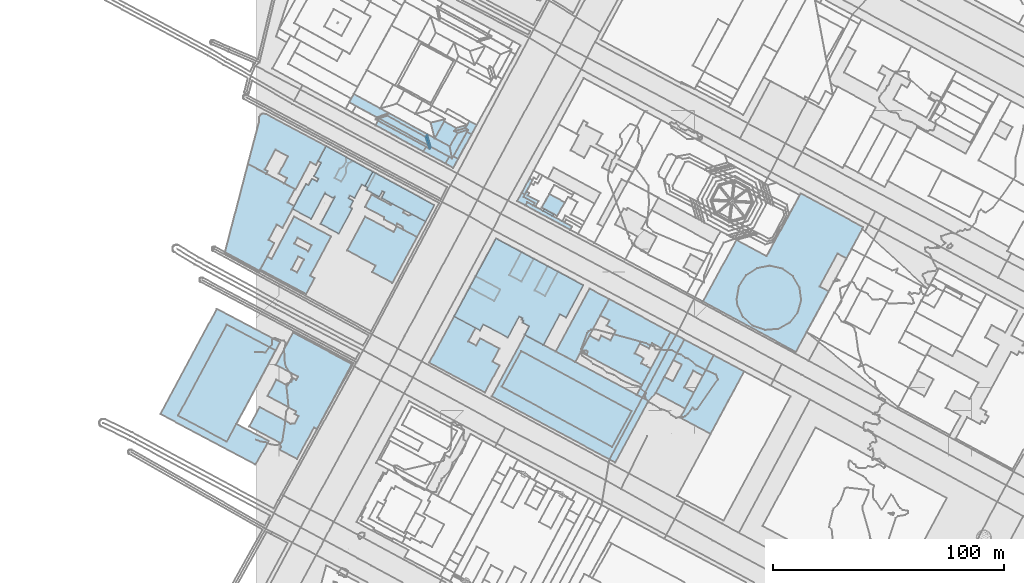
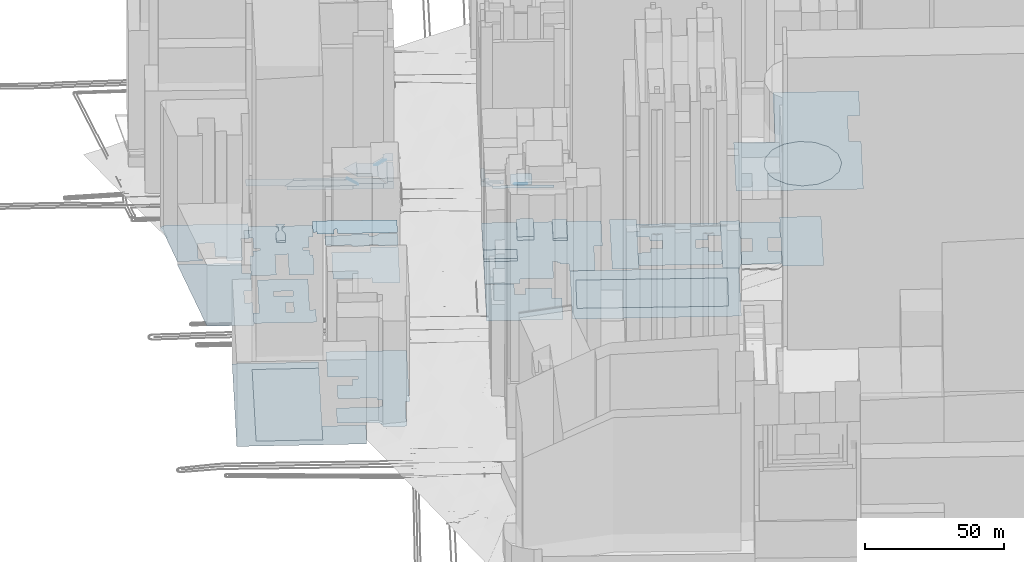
# Not in any storey, part 6 of 76: 49 footings.
"""IFC2X3 model written with IfcOpenShell, lengths in metres."""

import ifcopenshell
import ifcopenshell.guid

model = None  # the IFC model being written
_history = None  # IfcOwnerHistory: only IFC2X3 demands one
_inside = {}  # id of a spatial element -> (the spatial element, [elements in it])
_under = {}  # id of a project, library or spatial element -> (it, [spatial elements below it])
_declared = {}  # id of a project -> (the project, [libraries it declares])
_typed = {}  # id of a type object -> (the type object, [elements of that type])
_made_of = {}  # id of a material, layer set ... -> (it, [elements and type objects made of it])


def new_model(schema):
    """Start an empty IFC model of exactly this schema.

    Asked for "IFC4X3", IfcOpenShell would pick the latest addendum, in which some entities
    have other attributes; the version numbers below select the first issue.
    IFC2X3 requires an IfcOwnerHistory on every rooted entity: one is made here for all.
    """
    global model, _history
    if schema == "IFC4X3":
        model = ifcopenshell.file(schema_version=(4, 3, 0, 0))
    else:
        model = ifcopenshell.file(schema=schema)
    _inside.clear()
    _under.clear()
    _declared.clear()
    _typed.clear()
    _made_of.clear()
    _history = None
    if model.schema == "IFC2X3":
        org = make("IfcOrganization", Name="unknown")
        user = make(
            "IfcPersonAndOrganization",
            ThePerson=make("IfcPerson", FamilyName="unknown"),
            TheOrganization=org,
        )
        app = make(
            "IfcApplication",
            ApplicationDeveloper=org,
            Version="unknown",
            ApplicationFullName="unknown",
            ApplicationIdentifier="unknown",
        )
        _history = make(
            "IfcOwnerHistory",
            OwningUser=user,
            OwningApplication=app,
            ChangeAction="ADDED",
            CreationDate=0,
        )
    return model


def make(cls, **values):
    """One entity of the class cls with the attributes given. An attribute that is None is left unset."""
    return model.create_entity(
        cls, **{name: value for name, value in values.items() if value is not None}
    )


def rooted(cls, **values):
    """An entity with a GlobalId (a new one), such as an element, a storey or a relation."""
    return make(cls, GlobalId=ifcopenshell.guid.new(), OwnerHistory=_history, **values)


def si_unit(unit_type, name, prefix=None):
    """IfcSIUnit, for example si_unit("LENGTHUNIT", "METRE", prefix="MILLI")."""
    return make("IfcSIUnit", UnitType=unit_type, Prefix=prefix, Name=name)


def assignment(units):
    """IfcUnitAssignment: the units of a project."""
    return None if units is None else make("IfcUnitAssignment", Units=units)


def point(xyz):
    """IfcCartesianPoint."""
    return None if xyz is None else make("IfcCartesianPoint", Coordinates=xyz)


def direction(xyz):
    """IfcDirection."""
    return None if xyz is None else make("IfcDirection", DirectionRatios=xyz)


def frame(location, z_axis=None, x_axis=None):
    """IfcAxis2Placement3D, a coordinate frame: its origin and axes. An axis left out is left unset."""
    return make(
        "IfcAxis2Placement3D",
        Location=point(location),
        Axis=direction(z_axis),
        RefDirection=direction(x_axis),
    )


def origin_with_axes():
    """The frame at (0, 0, 0) with the z axis (0, 0, 1) and the x axis (1, 0, 0) written out."""
    return frame((0.0, 0.0, 0.0), z_axis=(0.0, 0.0, 1.0), x_axis=(1.0, 0.0, 0.0))


def place(relative_to, where):
    """IfcLocalPlacement: puts the frame where relative to a parent placement (None: the world)."""
    return make(
        "IfcLocalPlacement", PlacementRelTo=relative_to, RelativePlacement=where
    )


def context(
    kind, dimensions, precision=None, world=None, true_north=None, identifier=None
):
    """IfcGeometricRepresentationContext, for example the 3D "Model" context."""
    return make(
        "IfcGeometricRepresentationContext",
        ContextIdentifier=identifier,
        ContextType=kind,
        CoordinateSpaceDimension=dimensions,
        Precision=precision,
        WorldCoordinateSystem=world,
        TrueNorth=true_north,
    )


def subcontext(parent, identifier, kind, view, scale=None):
    """IfcGeometricRepresentationSubContext, for example "Body" below "Model"."""
    return make(
        "IfcGeometricRepresentationSubContext",
        ContextIdentifier=identifier,
        ContextType=kind,
        ParentContext=parent,
        TargetScale=scale,
        TargetView=view,
    )


def project(units=None, contexts=None):
    """IfcProject with its units and contexts."""
    return rooted(
        "IfcProject",
        Name="project",
        RepresentationContexts=contexts,
        UnitsInContext=assignment(units),
    )


def faces_of(points, faces, orient=None, outer=None):
    """IfcFace entities. A face is a list of loops; a loop is a list of indices into points, from 0.

    orient and outer hold one flag for each loop. By default every Orientation is true, the
    first loop of a face is its IfcFaceOuterBound and the others are IfcFaceBound.
    """
    made = []
    for i, loops in enumerate(faces):
        bounds = []
        for j, loop in enumerate(loops):
            is_outer = j == 0 if outer is None else outer[i][j]
            bounds.append(
                make(
                    "IfcFaceOuterBound" if is_outer else "IfcFaceBound",
                    Bound=make("IfcPolyLoop", Polygon=[points[k] for k in loop]),
                    Orientation=True if orient is None else orient[i][j],
                )
            )
        made.append(make("IfcFace", Bounds=bounds))
    return made


def faceted_brep(points, faces, orient=None, outer=None, voids=None):
    """IfcFacetedBrep: a solid bounded by flat faces; with voids (closed shells), ...WithVoids."""
    shared = [point(p) for p in points]
    hull = make("IfcClosedShell", CfsFaces=faces_of(shared, faces, orient, outer))
    if voids is None:
        return make("IfcFacetedBrep", Outer=hull)
    return make(
        "IfcFacetedBrepWithVoids",
        Outer=hull,
        Voids=[
            make(cls, CfsFaces=faces_of(shared, fs, o, b)) for cls, fs, o, b in voids
        ],
    )


def shape(context_of_items, identifier, shape_type, items):
    """IfcShapeRepresentation: the items that make up one representation, for example the "Body"."""
    return make(
        "IfcShapeRepresentation",
        ContextOfItems=context_of_items,
        RepresentationIdentifier=identifier,
        RepresentationType=shape_type,
        Items=items,
    )


def made_of(thing, what):
    """Note that an element or type object is made of a material, layer set ...; save() writes the relation."""
    if what is not None:
        _made_of.setdefault(what.id(), (what, []))[1].append(thing)
    return thing


def element(
    cls,
    number,
    at=None,
    inside=None,
    cuts=None,
    type_object=None,
    material=None,
    context=None,
    identifier="Body",
    shape_type=None,
    held_by="IfcProductDefinitionShape",
    body=None,
    shapes=None,
    **own,
):
    """One element of the class cls, such as IfcWall. Its Tag is "e" and its number.

    at: its placement. inside: the storey or other place that contains it. cuts: it is an
    opening in that element (IfcRelVoidsElement). A single representation is given by context,
    identifier, shape_type and body (its items); several are given by shapes. held_by: the class
    of the entity that holds the representations. save() writes the other relations.
    """
    e = rooted(cls, Tag="e%d" % number, ObjectPlacement=at, **own)
    if body is not None:
        shapes = [shape(context, identifier, shape_type, body)]
    if shapes is not None:
        e.Representation = make(held_by, Representations=shapes)
    if inside is not None:
        _inside.setdefault(inside.id(), (inside, []))[1].append(e)
    if cuts is not None:
        rooted(
            "IfcRelVoidsElement", RelatingBuildingElement=cuts, RelatedOpeningElement=e
        )
    if type_object is not None:
        _typed.setdefault(type_object.id(), (type_object, []))[1].append(e)
    return made_of(e, material)


def aggregate(whole, parts):
    """IfcRelAggregates: a whole, such as a stair, and the parts it consists of."""
    return rooted("IfcRelAggregates", RelatingObject=whole, RelatedObjects=parts)


def save(model, path):
    """Write the relations noted so far, then the file.

    IfcRelAggregates (storeys below a building ...), IfcRelContainedInSpatialStructure (elements
    in a storey), IfcRelDefinesByType, IfcRelAssociatesMaterial and IfcRelDeclares: one each for
    every whole, place, type object, material and project.
    """
    for whole, parts in _under.values():
        aggregate(whole, parts)
    for where, things in _inside.values():
        rooted(
            "IfcRelContainedInSpatialStructure",
            RelatedElements=things,
            RelatingStructure=where,
        )
    for kind, things in _typed.values():
        rooted("IfcRelDefinesByType", RelatedObjects=things, RelatingType=kind)
    for what, things in _made_of.values():
        rooted("IfcRelAssociatesMaterial", RelatedObjects=things, RelatingMaterial=what)
    for by, libraries in _declared.values():
        rooted("IfcRelDeclares", RelatingContext=by, RelatedDefinitions=libraries)
    model.write(path)


model = new_model("IFC2X3")

# Units and contexts
model_context = context("Model", 3, precision=1e-05, world=origin_with_axes())
body_context = subcontext(model_context, "Body", "Model", "MODEL_VIEW")
ifc_project = project(units=[si_unit("AREAUNIT", "SQUARE_METRE"), si_unit("LENGTHUNIT", "METRE")], contexts=[model_context])

# Footings
footing_1_placement = place(None, frame((183.8820757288, 196.3915098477, 20.8609767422), z_axis=(0.0, 0.0, 1.0), x_axis=(1.0, 0.0, 0.0)))
element("IfcFooting", 1, at=footing_1_placement, Name="Sol 0", PredefinedType="STRIP_FOOTING", context=body_context, shape_type="Brep", body=[
    faceted_brep([(13.0985430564, -7.030868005, 0.0), (0.0, 0.0, 0.0), (14.5169569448, 27.0695500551, 0.0), (27.6239079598, 20.0388061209, 0.0)], [[[0, 1, 2]], [[2, 3, 0]]]),
])
footing_2_placement = place(None, frame((102.2298570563, 205.6345629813, 20.5938253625), z_axis=(0.0, 0.0, 1.0), x_axis=(1.0, 0.0, 0.0)))
element("IfcFooting", 2, at=footing_2_placement, Name="Sol 0", PredefinedType="STRIP_FOOTING", context=body_context, shape_type="Brep", body=[
    faceted_brep([(53.4972467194, -28.6328905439, 0.0), (0.0, 0.0, 0.0), (14.353712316, 26.6122941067, 0.0), (67.8508291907, -2.0204918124, 0.0)], [[[0, 1, 2]], [[2, 3, 0]]]),
])
footing_3_placement = place(None, frame((106.4781571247, 209.8028425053, 21.3379729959), z_axis=(0.0, 0.0, 1.0), x_axis=(1.0, 0.0, 0.0)))
element("IfcFooting", 3, at=footing_3_placement, Name="Sol 0", PredefinedType="STRIP_FOOTING", context=body_context, shape_type="Brep", body=[
    faceted_brep([(47.8622501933, -26.0671157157, 0.0), (0.0, 0.0, 0.0), (8.5063843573, 15.4865312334, 0.0), (56.3684390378, -10.5694282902, 0.0)], [[[0, 1, 2]], [[2, 3, 0]]]),
])
footing_4_placement = place(None, frame((164.9927892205, 206.3193932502, 19.6062191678), z_axis=(0.0, 0.0, 1.0), x_axis=(1.0, 0.0, 0.0)))
element("IfcFooting", 4, at=footing_4_placement, Name="Sol 0", PredefinedType="STRIP_FOOTING", context=body_context, shape_type="Brep", body=[
    faceted_brep([(5.0878970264, -2.7053220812, 0.0), (0.0, 0.0, 0.0), (14.5577861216, 27.1921115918, 0.0), (20.6479519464, 23.9544415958, 0.0), (8.2630231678, 0.8287960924, 0.0)], [[[0, 1, 2]], [[3, 4, 0]], [[0, 2, 3]]]),
])
footing_5_placement = place(None, frame((173.2558123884, 207.1481893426, 18.8067512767), z_axis=(0.0, 0.0, 1.0), x_axis=(1.0, 0.0, 0.0)))
element("IfcFooting", 5, at=footing_5_placement, Name="Sol 0", PredefinedType="STRIP_FOOTING", context=body_context, shape_type="Brep", body=[
    faceted_brep([(12.733126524, -6.8241916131, 0.0), (0.0, 0.0, 0.0), (3.742823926, 6.9824180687, 0.0), (12.3816260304, 2.3532869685, 0.0), (16.475942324, 0.1582329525, 0.0), (25.1432202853, 16.3128705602, 0.0), (20.3758905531, 7.4200430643, 0.0), (16.2731366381, 9.6149967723, 0.0), (7.6512209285, 14.2443195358, 0.0), (12.3849287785, 23.1256455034, 0.0), (7.3952691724, 5.0375743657, 0.0), (11.2869121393, 12.2881807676, 0.0)], [[[0, 1, 2]], [[3, 4, 0]], [[5, 6, 7]], [[8, 9, 5]], [[0, 2, 10]], [[8, 5, 7]], [[0, 10, 11]], [[11, 8, 7]], [[3, 0, 11]], [[11, 7, 3]]]),
])
footing_6_placement = place(None, frame((140.736043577, 224.855812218, 18.8878227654), z_axis=(0.0, 0.0, 1.0), x_axis=(1.0, 0.0, 0.0)))
element("IfcFooting", 6, at=footing_6_placement, Name="Sol 0", PredefinedType="STRIP_FOOTING", context=body_context, shape_type="Brep", body=[
    faceted_brep([(26.5536145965, -14.2464559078, 0.0), (0.0, 0.0, 0.0), (3.8172594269, 7.11649328, 0.0), (26.1831921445, -4.8915607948, 0.0), (30.3624164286, -7.1300469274, 0.0), (23.3727549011, -0.5832457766, 0.0), (27.3481177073, -2.7130804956, 0.0), (30.8679530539, 3.8448574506, 0.0), (29.6369264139, 1.5434833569, 0.0), (25.6615651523, 3.6733168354, 0.0), (38.8145317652, 8.6556926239, 0.0), (35.0471740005, 1.6063739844, 0.0), (8.4690509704, 15.7859003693, 0.0), (12.3027872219, 22.9358968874, 0.0), (15.2048295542, 9.2916463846, 0.0), (11.254926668, 11.4106810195, 0.0), (12.4614103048, 13.6451532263, 0.0), (7.801181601, 4.9756455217, 0.0), (8.9662398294, 7.1430221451, 0.0), (12.9161442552, 5.023986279, 0.0)], [[[0, 1, 2]], [[3, 4, 0]], [[5, 6, 3]], [[7, 8, 9]], [[10, 11, 7]], [[12, 13, 10]], [[14, 15, 16]], [[17, 18, 19]], [[0, 2, 17]], [[5, 3, 0]], [[10, 7, 9]], [[16, 12, 10]], [[0, 17, 19]], [[16, 10, 9]], [[0, 19, 14]], [[16, 9, 5]], [[5, 0, 14]], [[14, 16, 5]]]),
])
footing_7_placement = place(None, frame((129.9536213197, 225.0858006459, 21.0283081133), z_axis=(0.0, 0.0, 1.0), x_axis=(1.0, 0.0, 0.0)))
element("IfcFooting", 7, at=footing_7_placement, Name="Sol 0", PredefinedType="STRIP_FOOTING", context=body_context, shape_type="Brep", body=[
    faceted_brep([(8.4687912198, -4.5312400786, 0.0), (0.0, 0.0, 0.0), (14.6163103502, 27.2482324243, 0.0), (23.0852094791, 22.7059084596, 0.0)], [[[0, 1, 2]], [[2, 3, 0]]]),
])
footing_8_placement = place(None, frame((85.8984085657, 240.2837612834, 20.6241127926), z_axis=(0.0, 0.0, 1.0), x_axis=(1.0, 0.0, 0.0)))
element("IfcFooting", 8, at=footing_8_placement, Name="Sol 0", PredefinedType="STRIP_FOOTING", context=body_context, shape_type="Brep", body=[
    faceted_brep([(11.2465195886, -6.0311397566, 0.0), (0.0, 0.0, 0.0), (18.1278687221, 33.8059517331, 0.0), (28.2024169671, 0.0388994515, 0.0), (23.2861681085, -9.1220554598, 0.0), (12.6512037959, -3.4168984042, 0.0), (30.1152258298, -1.848467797, 0.0), (29.3592670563, -1.4464661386, 0.0), (29.7229034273, -0.776106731, 0.0), (32.5654494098, -4.2180905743, 0.0), (29.6773030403, -2.6640194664, 0.0), (38.6867515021, -12.3182352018, 0.0), (30.5658357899, -7.9383700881, 0.0), (55.9958034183, 13.4846763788, 0.0), (48.5348020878, -0.4243246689, 0.0), (45.8336301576, 1.0208901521, 0.0)], [[[0, 1, 2]], [[3, 4, 5]], [[6, 7, 8]], [[9, 10, 6]], [[11, 12, 9]], [[13, 14, 15]], [[5, 0, 2]], [[9, 6, 8]], [[15, 11, 9]], [[2, 13, 15]], [[3, 5, 2]], [[15, 9, 8]], [[3, 2, 15]], [[15, 8, 3]]]),
])
footing_9_placement = place(None, frame((85.8984085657, 240.2837612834, 20.6241127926), z_axis=(0.0, 0.0, 1.0), x_axis=(1.0, 0.0, 0.0)))
element("IfcFooting", 9, at=footing_9_placement, Name="Sol 0", PredefinedType="STRIP_FOOTING", context=body_context, shape_type="Brep", body=[
    faceted_brep([(11.2465195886, -6.0311397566, 0.0), (0.0, 0.0, 0.0), (6.6595287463, 12.4230421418, 0.0), (28.2024169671, 0.0388994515, 0.0), (23.2861681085, -9.1220554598, 0.0), (12.6512037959, -3.4168984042, 0.0), (30.1152258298, -1.848467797, 0.0), (29.3592670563, -1.4464661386, 0.0), (29.7229034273, -0.776106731, 0.0), (32.5654494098, -4.2180905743, 0.0), (29.6773030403, -2.6640194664, 0.0), (38.6867515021, -12.3182352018, 0.0), (30.5658357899, -7.9383700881, 0.0), (55.9958034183, 13.4846763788, 0.0), (48.5348020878, -0.4243246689, 0.0), (45.8336301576, 1.0208901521, 0.0), (39.3945655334, 8.8619853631, 0.0), (45.0379209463, 19.3747728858, 0.0), (34.5220457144, 25.003566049, 0.0), (40.5020482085, 21.7978755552, 0.0), (34.8585594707, 11.2961922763, 0.0), (18.1278687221, 33.8059517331, 0.0), (29.1875069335, 27.8725894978, 0.0), (23.8498507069, 17.92958022, 0.0), (20.0566635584, 11.6460536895, 0.0), (9.3283721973, 17.3945398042, 0.0), (17.387953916, 6.6634513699, 0.0), (29.1928346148, 15.0606509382, 0.0)], [[[0, 1, 2]], [[3, 4, 5]], [[6, 7, 8]], [[9, 10, 6]], [[11, 12, 9]], [[13, 14, 15]], [[16, 17, 13]], [[18, 19, 20]], [[21, 22, 23]], [[24, 25, 21]], [[0, 2, 26]], [[9, 6, 8]], [[15, 11, 9]], [[16, 13, 15]], [[27, 18, 20]], [[24, 21, 23]], [[0, 26, 24]], [[15, 9, 8]], [[20, 16, 15]], [[23, 27, 20]], [[0, 24, 23]], [[15, 8, 3]], [[23, 20, 15]], [[5, 0, 23]], [[23, 15, 3]], [[3, 5, 23]]]),
])
footing_10_placement = place(None, frame((109.7482592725, 258.2133415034, 22.1609130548), z_axis=(0.0, 0.0, 1.0), x_axis=(1.0, 0.0, 0.0)))
element("IfcFooting", 10, at=footing_10_placement, Name="Sol 0", PredefinedType="STRIP_FOOTING", context=body_context, shape_type="Brep", body=[
    faceted_brep([(5.3429839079, -2.8689292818, 0.0), (0.0, 0.0, 0.0), (5.3376562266, 9.9430092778, 0.0), (10.6721950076, 7.073985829, 0.0)], [[[0, 1, 2]], [[2, 3, 0]]]),
])
footing_11_placement = place(None, frame((120.7569680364, 251.5799535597, 21.6785385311), z_axis=(0.0, 0.0, 1.0), x_axis=(1.0, 0.0, 0.0)))
element("IfcFooting", 11, at=footing_11_placement, Name="Sol 0", PredefinedType="STRIP_FOOTING", context=body_context, shape_type="Brep", body=[
    faceted_brep([(4.5360060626, -2.4342069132, 0.0), (0.0, 0.0, 0.0), (5.6434887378, 10.5016832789, 0.0), (10.1793614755, 8.0785806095, 0.0)], [[[0, 1, 2]], [[2, 3, 0]]]),
])
footing_12_placement = place(None, frame((123.8777892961, 287.3987743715, 22.3844927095), z_axis=(0.0, 0.0, 1.0), x_axis=(1.0, 0.0, 0.0)))
element("IfcFooting", 12, at=footing_12_placement, Name="Sol 0", PredefinedType="STRIP_FOOTING", context=body_context, shape_type="Brep", body=[
    faceted_brep([(6.7280173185, -3.6521887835, 0.0), (0.0, 0.0, 0.0), (3.2485350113, 5.9330390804, 0.0), (9.9766777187, 2.2697525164, 0.0)], [[[0, 1, 2]], [[2, 3, 0]]]),
])
footing_13_placement = place(None, frame((124.4423978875, 286.0286544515, 23.0098590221), z_axis=(0.0, 0.0, 1.0), x_axis=(1.0, 0.0, 0.0)))
element("IfcFooting", 13, at=footing_13_placement, Name="Sol 0", PredefinedType="STRIP_FOOTING", context=body_context, shape_type="Brep", body=[
    faceted_brep([(4.1965707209, -2.2827164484, 0.0), (0.0, 0.0, 0.0), (0.4463590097, 0.8156503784, 0.0), (4.6513696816, -1.4669677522, 0.0)], [[[0, 1, 2]], [[2, 3, 0]]]),
])
footing_14_placement = place(None, frame((116.8013041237, 288.3490732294, 22.6187660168), z_axis=(0.0, 0.0, 1.0), x_axis=(1.0, 0.0, 0.0)))
element("IfcFooting", 14, at=footing_14_placement, Name="Sol 0", PredefinedType="STRIP_FOOTING", context=body_context, shape_type="Brep", body=[
    faceted_brep([(19.4281025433, -10.5545678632, 0.0), (0.0, 0.0, 0.0), (0.7771349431, 1.4079120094, 0.0), (20.2053640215, -9.1577545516, 0.0)], [[[0, 1, 2]], [[2, 3, 0]]]),
])
footing_15_placement = place(None, frame((113.2505831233, 290.2618220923, 23.4496714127), z_axis=(0.0, 0.0, 1.0), x_axis=(1.0, 0.0, 0.0)))
element("IfcFooting", 15, at=footing_15_placement, Name="Sol 0", PredefinedType="STRIP_FOOTING", context=body_context, shape_type="Brep", body=[
    faceted_brep([(3.5507210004, -1.912748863, 0.0), (0.0, 0.0, 0.0), (1.9180329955, 3.4750820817, 0.0), (7.4887654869, -0.8344899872, 0.0), (6.9103282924, -1.9070263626, 0.0), (4.3278559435, -0.5048368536, 0.0), (3.2685432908, 2.7580220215, 0.0), (2.7316622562, 1.7414799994, 0.0)], [[[0, 1, 2]], [[3, 4, 5]], [[2, 6, 7]], [[7, 3, 5]], [[0, 2, 7]], [[7, 5, 0]]]),
])
footing_16_placement = place(None, frame((115.9822453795, 292.0033020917, 23.3452877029), z_axis=(0.0, 0.0, 1.0), x_axis=(1.0, 0.0, 0.0)))
element("IfcFooting", 16, at=footing_16_placement, Name="Sol 0", PredefinedType="STRIP_FOOTING", context=body_context, shape_type="Brep", body=[
    faceted_brep([(5.1896332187, -4.2029764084, 0.0), (4.1786660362, -3.648506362, 0.0), (4.7571032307, -2.5759699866, 0.0), (1.2720721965, 2.4017622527, 0.0), (2.4784536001, 1.7385394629, 0.0), (1.8832649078, 0.6547063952, 0.0), (6.4789719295, -1.8343194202, 0.0), (0.0, 0.0, 0.0)], [[[0, 1, 2]], [[3, 4, 5]], [[6, 0, 2]], [[7, 3, 5]], [[6, 2, 7]], [[7, 5, 6]]]),
])
footing_17_placement = place(None, frame((115.1686161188, 293.7369041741, 23.6149483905), z_axis=(0.0, 0.0, 1.0), x_axis=(1.0, 0.0, 0.0)))
element("IfcFooting", 17, at=footing_17_placement, Name="Sol 0", PredefinedType="STRIP_FOOTING", context=body_context, shape_type="Brep", body=[
    faceted_brep([(1.3505102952, -0.7170600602, 0.0), (0.0, 0.0, 0.0), (3.4125721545, 6.3457242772, 0.0), (4.7632106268, 5.6175640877, 0.0)], [[[0, 1, 2]], [[2, 3, 0]]]),
])
footing_18_placement = place(None, frame((208.3375568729, 247.8905716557, 20.825107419), z_axis=(0.0, 0.0, 1.0), x_axis=(1.0, 0.0, 0.0)))
element("IfcFooting", 18, at=footing_18_placement, Name="Sol 0", PredefinedType="STRIP_FOOTING", context=body_context, shape_type="Brep", body=[
    faceted_brep([(0.3701435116, -2.7934642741, 0.0), (0.0, 0.0, 0.0), (0.973996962, 5.5291486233, 0.0), (6.9390853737, -11.6321820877, 0.0), (2.7424292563, -7.8951187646, 0.0), (17.8949044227, -12.9813571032, 0.0), (12.2781734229, -13.435265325, 0.0), (26.4239639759, -5.9987460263, 0.0), (22.8786233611, -10.3587654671, 0.0), (27.2249428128, 4.9685003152, 0.0), (27.9565517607, -0.5963225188, 0.0), (19.7863353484, 13.0976424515, 0.0), (24.3493255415, 9.7978381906, 0.0), (8.7506217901, 13.3356587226, 0.0), (14.2932254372, 14.3549177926, 0.0), (4.0595645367, 10.2279804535, 0.0)], [[[0, 1, 2]], [[3, 4, 0]], [[5, 6, 3]], [[7, 8, 5]], [[9, 10, 7]], [[11, 12, 9]], [[13, 14, 11]], [[2, 15, 13]], [[3, 0, 2]], [[7, 5, 3]], [[11, 9, 7]], [[2, 13, 11]], [[7, 3, 2]], [[2, 11, 7]]]),
])
footing_19_placement = place(None, frame((193.7309608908, 246.6882133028, 19.7595905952), z_axis=(0.0, 0.0, 1.0), x_axis=(1.0, 0.0, 0.0)))
element("IfcFooting", 19, at=footing_19_placement, Name="Sol 0", PredefinedType="STRIP_FOOTING", context=body_context, shape_type="Brep", body=[
    faceted_brep([(40.2234747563, -21.7700261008, 0.0), (0.0, 0.0, 0.0), (14.4699178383, 26.7470627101, 0.0), (50.5303832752, 6.5385106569, 0.0), (54.4125243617, 4.4409408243, 0.0), (69.4444224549, 32.2049607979, 0.0), (62.1144547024, 18.6637293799, 0.0), (58.2323186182, 20.7612951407, 0.0), (27.5521167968, 19.6605385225, 0.0), (42.2947416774, 46.899331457, 0.0)], [[[0, 1, 2]], [[3, 4, 0]], [[5, 6, 7]], [[8, 9, 5]], [[0, 2, 8]], [[8, 5, 7]], [[3, 0, 8]], [[8, 7, 3]]]),
])
footing_20_placement = place(None, frame((75.8576447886, 324.2223197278, 23.8818952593), z_axis=(0.0, 0.0, 1.0), x_axis=(1.0, 0.0, 0.0)))
element("IfcFooting", 20, at=footing_20_placement, Name="Sol 0", PredefinedType="STRIP_FOOTING", context=body_context, shape_type="Brep", body=[
    faceted_brep([(1.6742153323, -6.7862405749, 0.0), (0.0, 0.0, 0.0), (6.2713279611, 1.5050133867, 0.0)], [[[0, 1, 2]]]),
])
footing_21_placement = place(None, frame((51.8301050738, 323.0662829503, 23.5650277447), z_axis=(0.0, 0.0, 1.0), x_axis=(1.0, 0.0, 0.0)))
element("IfcFooting", 21, at=footing_21_placement, Name="Sol 0", PredefinedType="STRIP_FOOTING", context=body_context, shape_type="Brep", body=[
    faceted_brep([(20.7629560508, -11.3941082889, 0.0), (0.0, 0.0, 0.0), (1.0828589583, 1.9776688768, 0.0), (21.9038617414, -9.3269442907, 0.0)], [[[0, 1, 2]], [[2, 3, 0]]]),
])
footing_22_placement = place(None, frame((-13.4692579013, 267.507853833, 20.5235292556), z_axis=(0.0, 0.0, 1.0), x_axis=(1.0, 0.0, 0.0)))
element("IfcFooting", 22, at=footing_22_placement, Name="Sol 0", PredefinedType="STRIP_FOOTING", context=body_context, shape_type="Brep", body=[
    faceted_brep([(14.8729310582, -7.9321108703, 0.0), (0.0, 0.0, 0.0), (10.0850586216, 38.7750178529, 0.0), (19.0179048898, 5.871663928, 0.0), (21.5236253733, 4.535158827, 0.0), (30.1073251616, 20.644198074, 0.0), (25.0429308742, 11.1485231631, 0.0), (22.5456521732, 12.4851249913, 0.0), (30.4109499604, 27.9418994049, 0.0), (27.3212769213, 22.1328790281, 0.0)], [[[0, 1, 2]], [[3, 4, 0]], [[5, 6, 7]], [[2, 8, 9]], [[3, 0, 2]], [[9, 5, 7]], [[3, 2, 9]], [[9, 7, 3]]]),
])
footing_23_placement = place(None, frame((-3.3841992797, 306.2828716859, 21.8195391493), z_axis=(0.0, 0.0, 1.0), x_axis=(1.0, 0.0, 0.0)))
element("IfcFooting", 23, at=footing_23_placement, Name="Sol 0", PredefinedType="STRIP_FOOTING", context=body_context, shape_type="Brep", body=[
    faceted_brep([(8.5865292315, -3.0534231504, 0.0), (7.9587232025, -4.2375453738, 0.0), (0.0, 0.0, 0.0), (16.8944091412, -6.0989674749, 0.0), (13.3099607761, -4.1865612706, 0.0), (17.3086069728, 3.3094443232, 0.0), (20.6318009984, -11.0072048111, 0.0), (15.6882811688, -8.366718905, 0.0), (33.8274296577, 7.7532955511, 0.0), (29.4571079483, -0.4464745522, 0.0), (26.9684045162, 0.8791195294, 0.0), (6.347319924, 21.8784555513, 0.0), (7.7846017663, 21.6841879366, 0.0), (4.8705322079, 20.3847231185, 0.0), (5.3911895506, 21.3455570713, 0.0), (7.3125093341, -2.3798647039, 0.0), (4.8038334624, 18.1301925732, 0.0), (11.8893541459, 6.2108665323, 0.0)], [[[0, 1, 2]], [[3, 4, 5]], [[6, 7, 3]], [[8, 9, 10]], [[11, 12, 8]], [[13, 14, 11]], [[15, 0, 2]], [[6, 3, 5]], [[11, 8, 10]], [[16, 13, 11]], [[15, 2, 16]], [[10, 6, 5]], [[16, 11, 10]], [[17, 15, 16]], [[10, 5, 17]], [[17, 16, 10]]]),
])
footing_24_placement = place(None, frame((47.3240526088, 296.7460494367, 22.6341458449), z_axis=(0.0, 0.0, 1.0), x_axis=(1.0, 0.0, 0.0)))
element("IfcFooting", 24, at=footing_24_placement, Name="Sol 0", PredefinedType="STRIP_FOOTING", context=body_context, shape_type="Brep", body=[
    faceted_brep([(1.2145569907, -0.6409345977, 0.0), (0.0, 0.0, 0.0), (3.3375678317, 6.267105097, 0.0), (4.5862716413, 5.5932606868, 0.0)], [[[0, 1, 2]], [[2, 3, 0]]]),
])
footing_25_placement = place(None, frame((15.9441565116, 286.8450369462, 20.647913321), z_axis=(0.0, 0.0, 1.0), x_axis=(1.0, 0.0, 0.0)))
element("IfcFooting", 25, at=footing_25_placement, Name="Sol 0", PredefinedType="STRIP_FOOTING", context=body_context, shape_type="Brep", body=[
    faceted_brep([(8.0352328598, -4.2810464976, 0.0), (0.0, 0.0, 0.0), (5.7830971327, 10.847390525, 0.0), (17.3582596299, 4.8532774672, 0.0), (14.5213100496, 6.363565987, 0.0), (14.0662474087, 7.0244198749, 0.0), (20.0203200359, -10.6811822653, 0.0), (12.0868715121, -6.4433762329, 0.0), (18.4068488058, 5.4205597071, 0.0), (24.7841247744, 0.7095061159, 0.0), (25.8033972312, 0.1662240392, 0.0), (24.1813290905, 4.6438087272, 0.0), (26.2793412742, 3.5246280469, 0.0), (29.9614850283, 10.6506035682, 0.0), (26.8302782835, 4.7855771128, 0.0), (24.8257532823, 5.8503314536, 0.0), (34.717463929, 16.1681175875, 0.0), (31.3798960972, 9.9010124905, 0.0), (11.0539615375, 20.7340482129, 0.0), (14.4990738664, 27.1911302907, 0.0), (11.2354346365, 13.0978057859, 0.0), (9.2563637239, 14.1517573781, 0.0), (12.3874511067, 20.0278770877, 0.0), (6.9042937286, 10.2497774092, 0.0), (8.3996436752, 13.0537949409, 0.0), (10.5910089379, 11.8912842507, 0.0)], [[[0, 1, 2]], [[3, 4, 5]], [[6, 7, 8]], [[9, 10, 6]], [[11, 12, 9]], [[13, 14, 15]], [[16, 17, 13]], [[18, 19, 16]], [[20, 21, 22]], [[23, 24, 25]], [[0, 2, 23]], [[8, 3, 5]], [[9, 6, 8]], [[16, 13, 15]], [[22, 18, 16]], [[0, 23, 25]], [[11, 9, 8]], [[22, 16, 15]], [[0, 25, 20]], [[11, 8, 5]], [[22, 15, 11]], [[5, 0, 20]], [[22, 11, 5]], [[5, 20, 22]]]),
])
footing_26_placement = place(None, frame((15.9441565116, 286.8450369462, 20.647913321), z_axis=(0.0, 0.0, 1.0), x_axis=(1.0, 0.0, 0.0)))
element("IfcFooting", 26, at=footing_26_placement, Name="Sol 0", PredefinedType="STRIP_FOOTING", context=body_context, shape_type="Brep", body=[
    faceted_brep([(8.0352328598, -4.2810464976, 0.0), (0.0, 0.0, 0.0), (5.7830971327, 10.847390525, 0.0), (17.3582596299, 4.8532774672, 0.0), (14.5213100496, 6.363565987, 0.0), (14.0662474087, 7.0244198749, 0.0), (20.0203200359, -10.6811822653, 0.0), (12.0868715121, -6.4433762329, 0.0), (18.4068488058, 5.4205597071, 0.0), (24.7841247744, 0.7095061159, 0.0), (25.8033972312, 0.1662240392, 0.0), (24.1813290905, 4.6438087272, 0.0), (26.2793412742, 3.5246280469, 0.0), (29.9614850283, 10.6506035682, 0.0), (26.8302782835, 4.7855771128, 0.0), (24.8257532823, 5.8503314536, 0.0), (34.717463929, 16.1681175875, 0.0), (31.3798960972, 9.9010124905, 0.0), (24.2412699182, 19.8434861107, 0.0), (26.2477906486, 20.7882623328, 0.0), (23.2917057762, 15.8356544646, 0.0), (23.2746353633, 18.0337020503, 0.0), (23.1881104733, 20.3974772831, 0.0), (22.2214757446, 18.5876933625, 0.0), (20.3782815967, 17.3894620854, 0.0), (14.4990738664, 27.1911302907, 0.0), (23.1045489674, 22.5059351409, 0.0), (12.3874511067, 20.0278770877, 0.0), (11.0539615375, 20.7340482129, 0.0), (11.2354346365, 13.0978057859, 0.0), (9.2563637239, 14.1517573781, 0.0), (6.9042937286, 10.2497774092, 0.0), (8.3996436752, 13.0537949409, 0.0), (10.5910089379, 11.8912842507, 0.0), (18.213707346, 13.3342229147, 0.0), (21.13557285, 11.7805123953, 0.0)], [[[0, 1, 2]], [[3, 4, 5]], [[6, 7, 8]], [[9, 10, 6]], [[11, 12, 9]], [[13, 14, 15]], [[16, 17, 13]], [[18, 19, 16]], [[20, 21, 18]], [[22, 23, 24]], [[25, 26, 22]], [[27, 28, 25]], [[29, 30, 27]], [[31, 32, 33]], [[0, 2, 31]], [[8, 3, 5]], [[9, 6, 8]], [[16, 13, 15]], [[20, 18, 16]], [[25, 22, 24]], [[29, 27, 25]], [[0, 31, 33]], [[11, 9, 8]], [[20, 16, 15]], [[25, 24, 34]], [[0, 33, 29]], [[11, 8, 5]], [[20, 15, 11]], [[29, 25, 34]], [[5, 0, 29]], [[35, 20, 11]], [[29, 34, 35]], [[11, 5, 29]], [[29, 35, 11]]]),
])
footing_27_placement = place(None, frame((34.1578638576, 300.1792598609, 21.4353953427), z_axis=(0.0, 0.0, 1.0), x_axis=(1.0, 0.0, 0.0)))
element("IfcFooting", 27, at=footing_27_placement, Name="Sol 0", PredefinedType="STRIP_FOOTING", context=body_context, shape_type="Brep", body=[
    faceted_brep([(2.921865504, -1.5537105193, 0.0), (0.0, 0.0, 0.0), (2.1645742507, 4.0552391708, 0.0), (5.0609280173, 4.6994791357, 0.0), (5.0779984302, 2.5014315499, 0.0), (4.8908416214, 9.1717122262, 0.0), (8.0340833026, 7.4540394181, 0.0), (6.0275625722, 6.509263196, 0.0), (4.0077683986, 5.2534704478, 0.0), (4.9744031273, 7.0632543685, 0.0)], [[[0, 1, 2]], [[3, 4, 0]], [[5, 6, 7]], [[0, 2, 8]], [[9, 5, 7]], [[0, 8, 9]], [[9, 7, 3]], [[3, 0, 9]]]),
])
footing_28_placement = place(None, frame((73.5998116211, 318.0232504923, 23.6934942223), z_axis=(0.0, 0.0, 1.0), x_axis=(1.0, 0.0, 0.0)))
element("IfcFooting", 28, at=footing_28_placement, Name="Sol 0", PredefinedType="STRIP_FOOTING", context=body_context, shape_type="Brep", body=[
    faceted_brep([(1.7651185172, -5.1642565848, 0.0), (0.0, 0.0, 0.0), (0.6783061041, 1.1958170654, 0.0), (2.2527799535, -4.2704138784, 0.0)], [[[0, 1, 2]], [[2, 3, 0]]]),
])
footing_29_placement = place(None, frame((72.5930611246, 311.6721746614, 23.6541015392), z_axis=(0.0, 0.0, 1.0), x_axis=(1.0, 0.0, 0.0)))
element("IfcFooting", 29, at=footing_29_placement, Name="Sol 0", PredefinedType="STRIP_FOOTING", context=body_context, shape_type="Brep", body=[
    faceted_brep([(9.5908889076, -5.2177144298, 0.0), (0.0, 0.0, 0.0), (1.1409056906, 2.0671639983, 0.0), (3.2595304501, 2.0806619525, 0.0), (11.2191958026, -2.2345041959, 0.0), (2.7718690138, 1.186819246, 0.0)], [[[0, 1, 2]], [[3, 4, 0]], [[0, 2, 5]], [[5, 3, 0]]]),
])
footing_30_placement = place(None, frame((82.1839500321, 306.4544602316, 23.6541015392), z_axis=(0.0, 0.0, 1.0), x_axis=(1.0, 0.0, 0.0)))
element("IfcFooting", 30, at=footing_30_placement, Name="Sol 0", PredefinedType="STRIP_FOOTING", context=body_context, shape_type="Brep", body=[
    faceted_brep([(3.3638596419, -1.8150130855, 0.0), (0.0, 0.0, 0.0), (1.628306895, 2.983210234, 0.0), (3.390767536, 3.1369042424, 0.0), (5.3873702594, 2.0276609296, 0.0), (2.8614214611, 2.1981677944, 0.0)], [[[0, 1, 2]], [[3, 4, 0]], [[0, 2, 5]], [[5, 3, 0]]]),
])
footing_31_placement = place(None, frame((84.0905066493, 313.8262916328, 23.7335275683), z_axis=(0.0, 0.0, 1.0), x_axis=(1.0, 0.0, 0.0)))
element("IfcFooting", 31, at=footing_31_placement, Name="Sol 0", PredefinedType="STRIP_FOOTING", context=body_context, shape_type="Brep", body=[
    faceted_brep([(0.9548648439, -5.1736636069, 0.0), (0.0, 0.0, 0.0), (3.3073776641, 5.9559091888, 0.0), (7.9345415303, 7.2975078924, 0.0)], [[[0, 1, 2]], [[2, 3, 0]]]),
])
footing_32_placement = place(None, frame((85.5747175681, 309.591364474, 23.7388524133), z_axis=(0.0, 0.0, 1.0), x_axis=(1.0, 0.0, 0.0)))
element("IfcFooting", 32, at=footing_32_placement, Name="Sol 0", PredefinedType="STRIP_FOOTING", context=body_context, shape_type="Brep", body=[
    faceted_brep([(1.9966027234, -1.1092433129, 0.0), (0.0, 0.0, 0.0), (5.9126749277, 10.5824993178, 0.0), (7.8583766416, 9.4948709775, 0.0)], [[[0, 1, 2]], [[2, 3, 0]]]),
])
footing_33_placement = place(None, frame((47.2941529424, 287.6862653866, 22.3142509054), z_axis=(0.0, 0.0, 1.0), x_axis=(1.0, 0.0, 0.0)))
element("IfcFooting", 33, at=footing_33_placement, Name="Sol 0", PredefinedType="STRIP_FOOTING", context=body_context, shape_type="Brep", body=[
    faceted_brep([(8.2307944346, -4.4008675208, 0.0), (0.0, 0.0, 0.0), (2.8591197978, 5.3067574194, 0.0), (13.4574445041, -8.1593656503, 0.0), (8.2421345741, -5.3777339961, 0.0), (22.5887243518, -13.0493648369, 0.0), (16.6767950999, -9.8872482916, 0.0), (16.3907258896, -8.5138902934, 0.0), (20.3292881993, -3.1168780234, 0.0), (26.2412137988, -6.2789916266, 0.0), (11.8946328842, 1.3926320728, 0.0), (17.1100684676, -1.400097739, 0.0), (16.5150002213, -2.4950270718, 0.0), (11.0899102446, 0.905893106, 0.0), (13.9699153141, -7.2208270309, 0.0), (18.9358097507, -3.7880894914, 0.0)], [[[0, 1, 2]], [[3, 4, 0]], [[5, 6, 7]], [[8, 9, 5]], [[10, 11, 12]], [[0, 2, 13]], [[14, 3, 0]], [[8, 5, 7]], [[13, 10, 12]], [[14, 0, 13]], [[8, 7, 14]], [[14, 13, 12]], [[15, 8, 14]], [[14, 12, 15]]]),
])
footing_34_placement = place(None, frame((47.9849679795, 295.0772811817, 22.6386360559), z_axis=(0.0, 0.0, 1.0), x_axis=(1.0, 0.0, 0.0)))
element("IfcFooting", 34, at=footing_34_placement, Name="Sol 0", PredefinedType="STRIP_FOOTING", context=body_context, shape_type="Brep", body=[
    faceted_brep([(5.4873189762, -2.9450128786, 0.0), (0.0, 0.0, 0.0), (3.9253562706, 7.2620289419, 0.0), (25.5503987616, -13.6700074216, 0.0), (6.4725730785, -3.4664836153, 0.0), (7.8112848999, -0.9862431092, 0.0), (29.3597658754, -6.5980497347, 0.0), (6.8259021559, -0.4536717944, 0.0)], [[[0, 1, 2]], [[3, 4, 5]], [[2, 6, 3]], [[7, 0, 2]], [[2, 3, 5]], [[5, 7, 2]]]),
])
footing_35_placement = place(None, frame((47.3240526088, 296.7460494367, 22.6341458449), z_axis=(0.0, 0.0, 1.0), x_axis=(1.0, 0.0, 0.0)))
element("IfcFooting", 35, at=footing_35_placement, Name="Sol 0", PredefinedType="STRIP_FOOTING", context=body_context, shape_type="Brep", body=[
    faceted_brep([(1.2145569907, -0.6409345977, 0.0), (0.0, 0.0, 0.0), (3.3375678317, 6.267105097, 0.0), (6.1482343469, -4.6137811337, 0.0), (0.6609153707, -1.668768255, 0.0), (26.2113141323, -15.3387756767, 0.0), (7.1334884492, -5.1352518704, 0.0), (8.4722002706, -2.6550113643, 0.0), (30.0206812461, -8.2668179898, 0.0), (7.4868175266, -2.1224400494, 0.0)], [[[0, 1, 2]], [[3, 4, 0]], [[5, 6, 7]], [[2, 8, 5]], [[3, 0, 2]], [[2, 5, 7]], [[9, 3, 2]], [[2, 7, 9]]]),
])
footing_36_placement = place(None, frame((39.5439098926, 268.8668109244, 21.829392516), z_axis=(0.0, 0.0, 1.0), x_axis=(1.0, 0.0, 0.0)))
element("IfcFooting", 36, at=footing_36_placement, Name="Sol 0", PredefinedType="STRIP_FOOTING", context=body_context, shape_type="Brep", body=[
    faceted_brep([(12.3759530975, -6.6176192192, 0.0), (0.0, 0.0, 0.0), (7.8585467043, 14.5796516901, 0.0), (19.6376943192, -14.0717489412, 0.0), (10.8802187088, -9.3883399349, 0.0), (21.5815076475, 10.4534858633, 0.0), (30.3389674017, 5.7700896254, 0.0), (20.2344833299, 7.9620457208, 0.0)], [[[0, 1, 2]], [[3, 4, 0]], [[5, 6, 3]], [[0, 2, 7]], [[5, 3, 0]], [[0, 7, 5]]]),
])
footing_37_placement = place(None, frame((92.5579373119, 252.7068034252, 21.8391315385), z_axis=(0.0, 0.0, 1.0), x_axis=(1.0, 0.0, 0.0)))
element("IfcFooting", 37, at=footing_37_placement, Name="Sol 0", PredefinedType="STRIP_FOOTING", context=body_context, shape_type="Brep", body=[
    faceted_brep([(10.7284251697, -5.759590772, 0.0), (0.0, 0.0, 0.0), (2.6688434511, 4.9714976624, 0.0), (13.3971348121, -0.7769884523, 0.0)], [[[0, 1, 2]], [[2, 3, 0]]]),
])
footing_38_placement = place(None, frame((75.1238683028, 220.2079028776, 20.5185789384), z_axis=(0.0, 0.0, 1.0), x_axis=(1.0, 0.0, 0.0)))
element("IfcFooting", 38, at=footing_38_placement, Name="Sol 0", PredefinedType="STRIP_FOOTING", context=body_context, shape_type="Brep", body=[
    faceted_brep([(24.1325284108, -12.9425374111, 0.0), (0.0, 0.0, 0.0), (10.7745402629, 20.0758584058, 0.0), (27.4290071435, 0.4961679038, 0.0), (30.4615452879, -1.1339469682, 0.0), (22.0193408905, 10.5585915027, 0.0), (30.411754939, 6.0597342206, 0.0), (20.0504016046, 15.09874989, 0.0), (16.9270008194, 9.2893047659, 0.0), (20.3502373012, 7.4527804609, 0.0)], [[[0, 1, 2]], [[3, 4, 0]], [[5, 6, 3]], [[2, 7, 8]], [[5, 3, 0]], [[0, 2, 8]], [[9, 5, 0]], [[0, 8, 9]]]),
])
footing_39_placement = place(None, frame((1.9323894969, 260.5699769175, 20.5582452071), z_axis=(0.0, 0.0, 1.0), x_axis=(1.0, 0.0, 0.0)))
element("IfcFooting", 39, at=footing_39_placement, Name="Sol 0", PredefinedType="STRIP_FOOTING", context=body_context, shape_type="Brep", body=[
    faceted_brep([(4.9268330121, 4.6201840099, 0.0), (14.7016706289, 11.1951078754, 0.0), (20.8513279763, 7.9135878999, 0.0), (0.0, 0.0, 0.0), (3.015664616, 5.6416221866, 0.0), (16.4710095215, 5.6645136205, 0.0), (13.4801606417, 0.0675826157, 0.0), (15.9519972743, -1.2582102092, 0.0), (23.5608715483, -3.7123317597, 0.0), (19.884421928, -10.6050822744, 0.0), (14.6755029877, 22.9076776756, 0.0), (16.1062463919, 13.820434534, 0.0), (21.6242486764, -2.6800914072, 0.0), (30.7036559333, 14.3562056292, 0.0), (18.9427160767, 4.3498225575, 0.0), (22.2473331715, 10.5499185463, 0.0)], [[[0, 1, 2]], [[3, 4, 0]], [[5, 6, 3]], [[3, 6, 7]], [[8, 9, 3]], [[1, 0, 10]], [[3, 0, 2]], [[8, 3, 7]], [[11, 1, 10]], [[5, 3, 2]], [[12, 8, 7]], [[11, 10, 13]], [[14, 5, 2]], [[12, 7, 14]], [[15, 11, 13]], [[12, 14, 2]], [[15, 13, 12]], [[12, 2, 15]]]),
])
footing_40_placement = place(None, frame((-2.7913984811, 192.6027250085, 19.7081583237), z_axis=(0.0, 0.0, 1.0), x_axis=(1.0, 0.0, 0.0)))
element("IfcFooting", 40, at=footing_40_placement, Name="Sol 0", PredefinedType="STRIP_FOOTING", context=body_context, shape_type="Brep", body=[
    faceted_brep([(13.0981058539, -7.0089939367, 0.0), (0.0, 0.0, 0.0), (4.4864005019, 8.3898337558, 0.0), (20.6597368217, -14.1155150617, 0.0), (13.1169008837, -10.0840985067, 0.0), (13.7530284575, -8.8887774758, 0.0), (44.4009101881, 27.0273767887, 0.0), (29.3389411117, -1.1361950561, 0.0), (27.9882930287, -0.4080177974, 0.0), (11.4828536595, 26.7119974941, 0.0), (18.926971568, 40.6428730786, 0.0), (16.6440978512, 17.6791392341, 0.0), (18.5196108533, 21.1870066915, 0.0), (20.3713252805, 20.1981878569, 0.0), (7.8920809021, 13.1589018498, 0.0), (11.7089640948, 20.3197258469, 0.0), (21.330483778, 4.466328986, 0.0), (19.7335216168, 5.3248766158, 0.0), (20.361463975, 6.4978988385, 0.0), (17.9922095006, 1.1635335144, 0.0), (21.1066720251, 21.5722969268, 0.0), (19.6699087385, 1.3495336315, 0.0)], [[[0, 1, 2]], [[3, 4, 5]], [[6, 7, 8]], [[9, 10, 6]], [[11, 12, 13]], [[14, 15, 11]], [[16, 17, 18]], [[0, 2, 19]], [[3, 5, 0]], [[20, 9, 6]], [[18, 14, 11]], [[0, 19, 21]], [[8, 3, 0]], [[20, 6, 8]], [[18, 11, 13]], [[8, 0, 21]], [[13, 20, 8]], [[16, 18, 13]], [[8, 21, 16]], [[16, 13, 8]]]),
])
footing_41_placement = place(None, frame((-33.682086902, 197.2515555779, 19.8467253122), z_axis=(0.0, 0.0, 1.0), x_axis=(1.0, 0.0, 0.0)))
element("IfcFooting", 41, at=footing_41_placement, Name="Sol 0", PredefinedType="STRIP_FOOTING", context=body_context, shape_type="Brep", body=[
    faceted_brep([(21.1496172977, -11.2344352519, 0.0), (0.0, 0.0, 0.0), (21.1603180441, 39.5140614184, 0.0), (42.3099874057, 28.2685864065, 0.0)], [[[0, 1, 2]], [[2, 3, 0]]]),
])
footing_42_placement = place(None, frame((-41.2792322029, 197.9628221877, 19.7236717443), z_axis=(0.0, 0.0, 1.0), x_axis=(1.0, 0.0, 0.0)))
element("IfcFooting", 42, at=footing_42_placement, Name="Sol 0", PredefinedType="STRIP_FOOTING", context=body_context, shape_type="Brep", body=[
    faceted_brep([(46.9005745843, -11.6129862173, 0.0), (41.1697471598, -21.8824360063, 0.0), (0.0, 0.0, 0.0), (24.432417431, 45.6138174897, 0.0), (51.740056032, 31.0979986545, 0.0), (32.8697860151, -4.2484289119, 0.0)], [[[0, 1, 2]], [[3, 4, 5]], [[5, 0, 2]], [[2, 3, 5]]]),
])
footing_43_placement = place(None, frame((40.4372493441, 332.9926795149, 23.2973875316), z_axis=(0.0, 0.0, 1.0), x_axis=(1.0, 0.0, 0.0)))
element("IfcFooting", 43, at=footing_43_placement, Name="Sol 0", PredefinedType="STRIP_FOOTING", context=body_context, shape_type="Brep", body=[
    faceted_brep([(43.3750075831, -23.5550090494, 0.0), (0.0, 0.0, 0.0), (2.0171467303, 3.6649515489, 0.0), (43.6532573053, -19.1663878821, 0.0), (44.6081221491, -24.340051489, 0.0)], [[[0, 1, 2]], [[3, 4, 0]], [[0, 2, 3]]]),
])
footing_44_placement = place(None, frame((90.7756990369, 321.8531409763, 24.126993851), z_axis=(0.0, 0.0, 1.0), x_axis=(1.0, 0.0, 0.0)))
element("IfcFooting", 44, at=footing_44_placement, Name="Sol 0", PredefinedType="STRIP_FOOTING", context=body_context, shape_type="Brep", body=[
    faceted_brep([(1.2493491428, -0.7293414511, 0.0), (0.0, 0.0, 0.0), (1.7368622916, 3.0843934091, 0.0), (2.6573951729, -2.7669055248, 0.0), (0.711693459, -1.6792771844, 0.0), (4.9315253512, 1.3007267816, 0.0)], [[[0, 1, 2]], [[3, 4, 0]], [[2, 5, 3]], [[3, 0, 2]]]),
])
footing_45_placement = place(None, frame((86.0131052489, 320.5432770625, 24.0792113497), z_axis=(0.0, 0.0, 1.0), x_axis=(1.0, 0.0, 0.0)))
element("IfcFooting", 45, at=footing_45_placement, Name="Sol 0", PredefinedType="STRIP_FOOTING", context=body_context, shape_type="Brep", body=[
    faceted_brep([(4.762593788, 1.3098639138, 0.0), (0.0, 0.0, 0.0), (0.7607723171, 1.3633097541, 0.0), (5.5154405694, 2.6286731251, 0.0)], [[[0, 1, 2]], [[2, 3, 0]]]),
])
footing_46_placement = place(None, frame((86.0131052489, 320.5432770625, 24.0792113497), z_axis=(0.0, 0.0, 1.0), x_axis=(1.0, 0.0, 0.0)))
element("IfcFooting", 46, at=footing_46_placement, Name="Sol 0", PredefinedType="STRIP_FOOTING", context=body_context, shape_type="Brep", body=[
    faceted_brep([(1.3847790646, -0.7610762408, 0.0), (0.0, 0.0, 0.0), (4.762593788, 1.3098639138, 0.0), (6.0119429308, 0.5805224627, 0.0)], [[[0, 1, 2]], [[2, 3, 0]]]),
])
footing_47_placement = place(None, frame((77.5318601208, 317.4360791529, 23.8332747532), z_axis=(0.0, 0.0, 1.0), x_axis=(1.0, 0.0, 0.0)))
element("IfcFooting", 47, at=footing_47_placement, Name="Sol 0", PredefinedType="STRIP_FOOTING", context=body_context, shape_type="Brep", body=[
    faceted_brep([(6.5586465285, -3.60978752, 0.0), (0.0, 0.0, 0.0), (4.059713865, 7.3191174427, 0.0), (8.4812451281, 3.1071979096, 0.0), (9.8660241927, 2.3461216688, 0.0), (9.2420174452, 4.4705076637, 0.0)], [[[0, 1, 2]], [[3, 4, 0]], [[2, 5, 3]], [[3, 0, 2]]]),
])
footing_48_placement = place(None, frame((56.8465504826, 327.2323505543, 23.571723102), z_axis=(0.0, 0.0, 1.0), x_axis=(1.0, 0.0, 0.0)))
element("IfcFooting", 48, at=footing_48_placement, Name="Sol 0", PredefinedType="STRIP_FOOTING", context=body_context, shape_type="Brep", body=[
    faceted_brep([(16.7532611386, -9.209100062, 0.0), (0.0, 0.0, 0.0), (0.6872635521, 1.151510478, 0.0), (17.4315672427, -8.0132829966, 0.0)], [[[0, 1, 2]], [[2, 3, 0]]]),
])
footing_49_placement = place(None, frame((51.9190164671, 325.5875262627, 23.5550313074), z_axis=(0.0, 0.0, 1.0), x_axis=(1.0, 0.0, 0.0)))
element("IfcFooting", 49, at=footing_49_placement, Name="Sol 0", PredefinedType="STRIP_FOOTING", context=body_context, shape_type="Brep", body=[
    faceted_brep([(21.8149503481, -11.8481876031, 0.0), (0.0, 0.0, 0.0), (4.9275340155, 1.6448242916, 0.0), (21.6807951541, -7.5642757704, 0.0), (23.4459136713, -12.7285323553, 0.0)], [[[0, 1, 2]], [[3, 4, 0]], [[0, 2, 3]]]),
])

save(model, "model.ifc")
